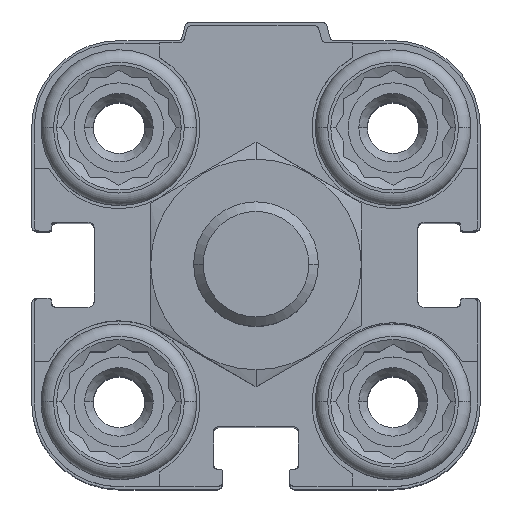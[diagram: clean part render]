
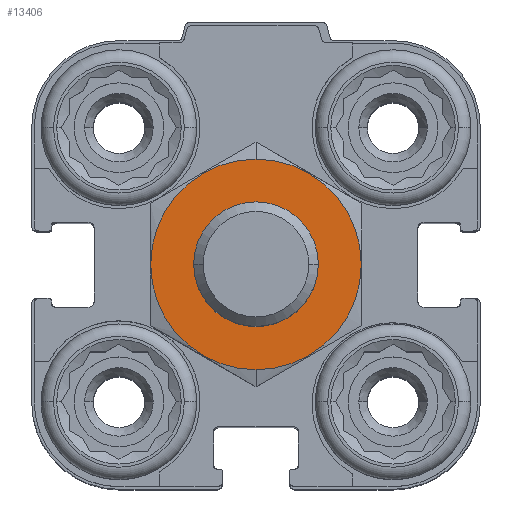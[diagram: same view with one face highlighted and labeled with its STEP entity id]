
A CAD part, top view. The second image highlights one B-rep face of the part: STEP entity #13406.
In plain terms, the highlighted planar face has unit normal (0, 0, 1).
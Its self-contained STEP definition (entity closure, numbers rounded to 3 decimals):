
#734 = AXIS2_PLACEMENT_3D ( 'NONE', #19363, #17714, #3598 ) ;
#2358 = CARTESIAN_POINT ( 'NONE',  ( 0., -5., 13.5 ) ) ;
#2978 = AXIS2_PLACEMENT_3D ( 'NONE', #12036, #13886, #18331 ) ;
#3177 = DIRECTION ( 'NONE',  ( 0., 0., -1. ) ) ;
#3207 = EDGE_LOOP ( 'NONE', ( #12952, #3586 ) ) ;
#3506 = VERTEX_POINT ( 'NONE', #2358 ) ;
#3559 = VERTEX_POINT ( 'NONE', #18890 ) ;
#3586 = ORIENTED_EDGE ( 'NONE', *, *, #17147, .T. ) ;
#3598 = DIRECTION ( 'NONE',  ( 0., -1., 0. ) ) ;
#3652 = CIRCLE ( 'NONE', #4329, 5. ) ;
#4329 = AXIS2_PLACEMENT_3D ( 'NONE', #15850, #3177, #18944 ) ;
#4972 = CIRCLE ( 'NONE', #734, 8.45 ) ;
#6262 = CIRCLE ( 'NONE', #2978, 8.45 ) ;
#6525 = DIRECTION ( 'NONE',  ( 0., 0., -1. ) ) ;
#6627 = CARTESIAN_POINT ( 'NONE',  ( 0., 0., 13.5 ) ) ;
#7901 = CARTESIAN_POINT ( 'NONE',  ( 0., 0., 13.5 ) ) ;
#8079 = FACE_OUTER_BOUND ( 'NONE', #15201, .T. ) ;
#8486 = AXIS2_PLACEMENT_3D ( 'NONE', #6627, #6525, #10029 ) ;
#8904 = ORIENTED_EDGE ( 'NONE', *, *, #18566, .F. ) ;
#9005 = EDGE_CURVE ( 'NONE', #11337, #3506, #12227, .T. ) ;
#9595 = AXIS2_PLACEMENT_3D ( 'NONE', #7901, #19332, #14178 ) ;
#9820 = FACE_BOUND ( 'NONE', #3207, .T. ) ;
#10029 = DIRECTION ( 'NONE',  ( 0., -1., 0. ) ) ;
#11337 = VERTEX_POINT ( 'NONE', #14496 ) ;
#12036 = CARTESIAN_POINT ( 'NONE',  ( 0., 0., 13.5 ) ) ;
#12227 = CIRCLE ( 'NONE', #9595, 5. ) ;
#12952 = ORIENTED_EDGE ( 'NONE', *, *, #9005, .T. ) ;
#13406 = ADVANCED_FACE ( 'NONE', ( #8079, #9820 ), #16012, .F. ) ;
#13886 = DIRECTION ( 'NONE',  ( 0., 0., -1. ) ) ;
#14178 = DIRECTION ( 'NONE',  ( 0., -1., 0. ) ) ;
#14496 = CARTESIAN_POINT ( 'NONE',  ( 0., 5., 13.5 ) ) ;
#14903 = CARTESIAN_POINT ( 'NONE',  ( 0., 8.45, 13.5 ) ) ;
#15201 = EDGE_LOOP ( 'NONE', ( #8904, #18259 ) ) ;
#15850 = CARTESIAN_POINT ( 'NONE',  ( 0., 0., 13.5 ) ) ;
#16012 = PLANE ( 'NONE',  #8486 ) ;
#17147 = EDGE_CURVE ( 'NONE', #3506, #11337, #3652, .T. ) ;
#17714 = DIRECTION ( 'NONE',  ( 0., 0., -1. ) ) ;
#18259 = ORIENTED_EDGE ( 'NONE', *, *, #19096, .F. ) ;
#18331 = DIRECTION ( 'NONE',  ( 0., -1., 0. ) ) ;
#18566 = EDGE_CURVE ( 'NONE', #3559, #19387, #4972, .T. ) ;
#18890 = CARTESIAN_POINT ( 'NONE',  ( 0., -8.45, 13.5 ) ) ;
#18944 = DIRECTION ( 'NONE',  ( 0., -1., 0. ) ) ;
#19096 = EDGE_CURVE ( 'NONE', #19387, #3559, #6262, .T. ) ;
#19332 = DIRECTION ( 'NONE',  ( 0., 0., -1. ) ) ;
#19363 = CARTESIAN_POINT ( 'NONE',  ( 0., 0., 13.5 ) ) ;
#19387 = VERTEX_POINT ( 'NONE', #14903 ) ;
